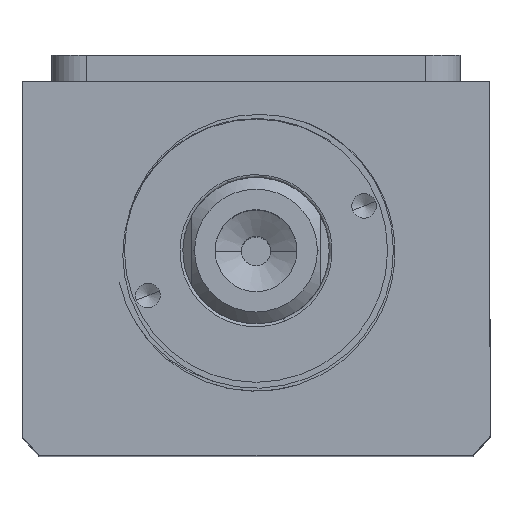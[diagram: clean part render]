
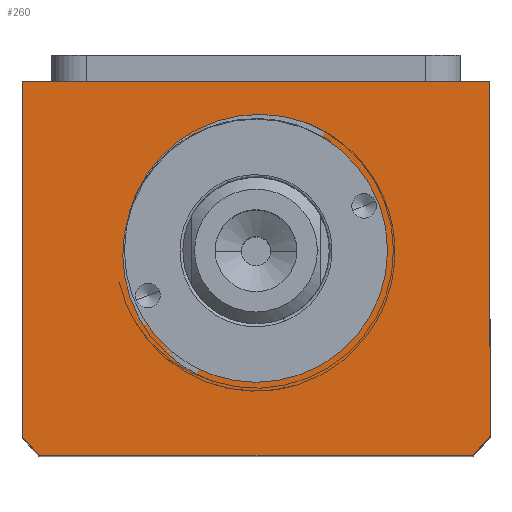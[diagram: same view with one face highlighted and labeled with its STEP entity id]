
A CAD part, top view. The second image highlights one B-rep face of the part: STEP entity #260.
In plain terms, the highlighted planar face has unit normal (0, 0, 1).
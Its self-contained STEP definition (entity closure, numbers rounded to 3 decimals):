
#22 = CARTESIAN_POINT ( 'NONE',  ( 22.5, -40.507, 140. ) ) ;
#50 = VECTOR ( 'NONE', #5467, 1000. ) ;
#64 = EDGE_CURVE ( 'NONE', #2249, #3489, #656, .T. ) ;
#78 = VECTOR ( 'NONE', #9833, 1000. ) ;
#166 = ORIENTED_EDGE ( 'NONE', *, *, #3903, .T. ) ;
#260 = ADVANCED_FACE ( 'NONE', ( #3605, #5700 ), #1065, .T. ) ;
#517 = CIRCLE ( 'NONE', #10151, 22.5 ) ;
#656 = LINE ( 'NONE', #7294, #6684 ) ;
#716 = DIRECTION ( 'NONE',  ( 1., 0., 0. ) ) ;
#754 = DIRECTION ( 'NONE',  ( -1., 0., 0. ) ) ;
#755 = DIRECTION ( 'NONE',  ( 1., 0., 0. ) ) ;
#808 = CARTESIAN_POINT ( 'NONE',  ( -22.5, -40.507, 140. ) ) ;
#859 = VERTEX_POINT ( 'NONE', #6288 ) ;
#931 = DIRECTION ( 'NONE',  ( 0., 0., 1. ) ) ;
#1049 = CIRCLE ( 'NONE', #2490, 51. ) ;
#1065 = PLANE ( 'NONE',  #2620 ) ;
#1101 = CARTESIAN_POINT ( 'NONE',  ( 0., 0., 140. ) ) ;
#1220 = EDGE_CURVE ( 'NONE', #3423, #859, #2158, .T. ) ;
#1510 = CARTESIAN_POINT ( 'NONE',  ( 37.094, -75.507, 140. ) ) ;
#1897 = ORIENTED_EDGE ( 'NONE', *, *, #7002, .T. ) ;
#1990 = ORIENTED_EDGE ( 'NONE', *, *, #64, .T. ) ;
#2086 = DIRECTION ( 'NONE',  ( 0., 0., 1. ) ) ;
#2132 = EDGE_CURVE ( 'NONE', #3489, #3857, #1049, .T. ) ;
#2158 = LINE ( 'NONE', #7452, #78 ) ;
#2249 = VERTEX_POINT ( 'NONE', #4689 ) ;
#2454 = CIRCLE ( 'NONE', #6158, 22.5 ) ;
#2490 = AXIS2_PLACEMENT_3D ( 'NONE', #10113, #5405, #716 ) ;
#2578 = CARTESIAN_POINT ( 'NONE',  ( 0., -40.507, 140. ) ) ;
#2620 = AXIS2_PLACEMENT_3D ( 'NONE', #1101, #931, #755 ) ;
#2747 = VECTOR ( 'NONE', #754, 1000. ) ;
#3369 = DIRECTION ( 'NONE',  ( 1., 0., 0. ) ) ;
#3423 = VERTEX_POINT ( 'NONE', #3506 ) ;
#3436 = CARTESIAN_POINT ( 'NONE',  ( 40., -11.507, 140. ) ) ;
#3489 = VERTEX_POINT ( 'NONE', #1510 ) ;
#3491 = ORIENTED_EDGE ( 'NONE', *, *, #6491, .F. ) ;
#3506 = CARTESIAN_POINT ( 'NONE',  ( -40., -11.507, 140. ) ) ;
#3520 = EDGE_CURVE ( 'NONE', #6408, #3423, #6929, .T. ) ;
#3605 = FACE_BOUND ( 'NONE', #5856, .T. ) ;
#3731 = LINE ( 'NONE', #3894, #50 ) ;
#3857 = VERTEX_POINT ( 'NONE', #7779 ) ;
#3894 = CARTESIAN_POINT ( 'NONE',  ( 40., -11.507, 140. ) ) ;
#3903 = EDGE_CURVE ( 'NONE', #3857, #6408, #3731, .T. ) ;
#3955 = ORIENTED_EDGE ( 'NONE', *, *, #3520, .T. ) ;
#4628 = DIRECTION ( 'NONE',  ( 0., 0., 1. ) ) ;
#4689 = CARTESIAN_POINT ( 'NONE',  ( -37.094, -75.507, 140. ) ) ;
#5083 = ORIENTED_EDGE ( 'NONE', *, *, #1220, .T. ) ;
#5405 = DIRECTION ( 'NONE',  ( 0., 0., 1. ) ) ;
#5467 = DIRECTION ( 'NONE',  ( 0., 1., 0. ) ) ;
#5700 = FACE_OUTER_BOUND ( 'NONE', #7692, .T. ) ;
#5856 = EDGE_LOOP ( 'NONE', ( #9485, #3491 ) ) ;
#6158 = AXIS2_PLACEMENT_3D ( 'NONE', #9318, #4628, #10117 ) ;
#6288 = CARTESIAN_POINT ( 'NONE',  ( -40., -72.145, 140. ) ) ;
#6408 = VERTEX_POINT ( 'NONE', #3436 ) ;
#6491 = EDGE_CURVE ( 'NONE', #7475, #9238, #2454, .T. ) ;
#6684 = VECTOR ( 'NONE', #9206, 1000. ) ;
#6791 = CARTESIAN_POINT ( 'NONE',  ( 0., -40.507, 140. ) ) ;
#6929 = LINE ( 'NONE', #10149, #2747 ) ;
#7002 = EDGE_CURVE ( 'NONE', #859, #2249, #7279, .T. ) ;
#7207 = EDGE_CURVE ( 'NONE', #9238, #7475, #517, .T. ) ;
#7279 = CIRCLE ( 'NONE', #7542, 51. ) ;
#7294 = CARTESIAN_POINT ( 'NONE',  ( -40., -75.507, 140. ) ) ;
#7452 = CARTESIAN_POINT ( 'NONE',  ( -40., -11.507, 140. ) ) ;
#7475 = VERTEX_POINT ( 'NONE', #808 ) ;
#7542 = AXIS2_PLACEMENT_3D ( 'NONE', #6791, #2086, #7590 ) ;
#7590 = DIRECTION ( 'NONE',  ( 1., 0., 0. ) ) ;
#7692 = EDGE_LOOP ( 'NONE', ( #5083, #1897, #1990, #9618, #166, #3955 ) ) ;
#7779 = CARTESIAN_POINT ( 'NONE',  ( 40., -72.145, 140. ) ) ;
#8089 = DIRECTION ( 'NONE',  ( 0., 0., 1. ) ) ;
#9206 = DIRECTION ( 'NONE',  ( 1., 0., 0. ) ) ;
#9238 = VERTEX_POINT ( 'NONE', #22 ) ;
#9318 = CARTESIAN_POINT ( 'NONE',  ( 0., -40.507, 140. ) ) ;
#9485 = ORIENTED_EDGE ( 'NONE', *, *, #7207, .F. ) ;
#9618 = ORIENTED_EDGE ( 'NONE', *, *, #2132, .T. ) ;
#9833 = DIRECTION ( 'NONE',  ( 0., -1., 0. ) ) ;
#10113 = CARTESIAN_POINT ( 'NONE',  ( 0., -40.507, 140. ) ) ;
#10117 = DIRECTION ( 'NONE',  ( 1., 0., 0. ) ) ;
#10149 = CARTESIAN_POINT ( 'NONE',  ( -40., -11.507, 140. ) ) ;
#10151 = AXIS2_PLACEMENT_3D ( 'NONE', #2578, #8089, #3369 ) ;
